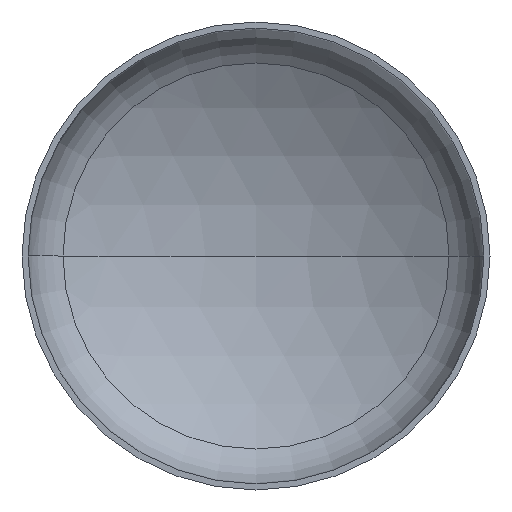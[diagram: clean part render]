
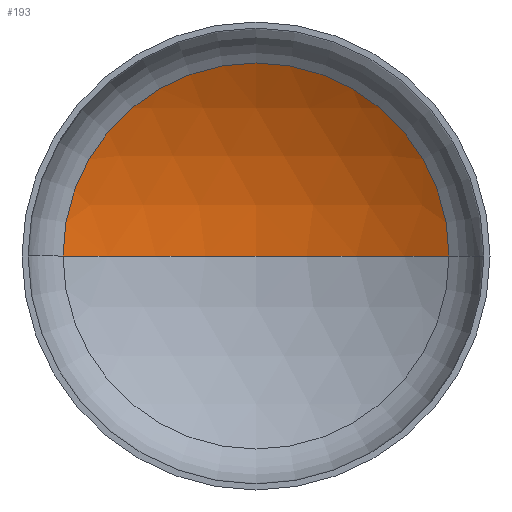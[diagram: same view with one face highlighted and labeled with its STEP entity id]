
A CAD part, front view. The second image highlights one B-rep face of the part: STEP entity #193.
In plain terms, the highlighted spherical face has radius 3200 mm.
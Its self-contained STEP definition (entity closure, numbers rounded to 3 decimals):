
#3 = CARTESIAN_POINT ( 'NONE',  ( 0., -2094.799, 0. ) ) ;
#5 = AXIS2_PLACEMENT_3D ( 'NONE', #385, #241, #332 ) ;
#8 = VERTEX_POINT ( 'NONE', #265 ) ;
#11 = EDGE_LOOP ( 'NONE', ( #117, #138, #113 ) ) ;
#18 = AXIS2_PLACEMENT_3D ( 'NONE', #295, #298, #209 ) ;
#27 = DIRECTION ( 'NONE',  ( -1., 0., 0. ) ) ;
#59 = AXIS2_PLACEMENT_3D ( 'NONE', #3, #355, #27 ) ;
#113 = ORIENTED_EDGE ( 'NONE', *, *, #345, .T. ) ;
#117 = ORIENTED_EDGE ( 'NONE', *, *, #393, .F. ) ;
#133 = VERTEX_POINT ( 'NONE', #233 ) ;
#138 = ORIENTED_EDGE ( 'NONE', *, *, #397, .T. ) ;
#143 = CARTESIAN_POINT ( 'NONE',  ( 0., -2094.799, 0. ) ) ;
#193 = ADVANCED_FACE ( 'NONE', ( #350 ), #272, .F. ) ;
#194 = CARTESIAN_POINT ( 'NONE',  ( 0., 1105.201, 0. ) ) ;
#209 = DIRECTION ( 'NONE',  ( 1., 0., 0. ) ) ;
#218 = DIRECTION ( 'NONE',  ( 0., 0., -1. ) ) ;
#233 = CARTESIAN_POINT ( 'NONE',  ( 1650.135, 646.925, 0. ) ) ;
#241 = DIRECTION ( 'NONE',  ( 0., 0., 1. ) ) ;
#265 = CARTESIAN_POINT ( 'NONE',  ( -1650.135, 646.925, 0. ) ) ;
#272 = SPHERICAL_SURFACE ( 'NONE', #59, 3200. ) ;
#278 = AXIS2_PLACEMENT_3D ( 'NONE', #143, #218, #384 ) ;
#289 = CIRCLE ( 'NONE', #5, 3200. ) ;
#295 = CARTESIAN_POINT ( 'NONE',  ( 0., 646.925, 0. ) ) ;
#298 = DIRECTION ( 'NONE',  ( 0., -1., 0. ) ) ;
#317 = VERTEX_POINT ( 'NONE', #194 ) ;
#332 = DIRECTION ( 'NONE',  ( 1., 0., 0. ) ) ;
#345 = EDGE_CURVE ( 'NONE', #133, #8, #378, .T. ) ;
#350 = FACE_OUTER_BOUND ( 'NONE', #11, .T. ) ;
#355 = DIRECTION ( 'NONE',  ( 0., 0., -1. ) ) ;
#365 = CIRCLE ( 'NONE', #278, 3200. ) ;
#378 = CIRCLE ( 'NONE', #18, 1650.135 ) ;
#384 = DIRECTION ( 'NONE',  ( -1., 0., 0. ) ) ;
#385 = CARTESIAN_POINT ( 'NONE',  ( 0., -2094.799, 0. ) ) ;
#393 = EDGE_CURVE ( 'NONE', #317, #8, #289, .T. ) ;
#397 = EDGE_CURVE ( 'NONE', #317, #133, #365, .T. ) ;
